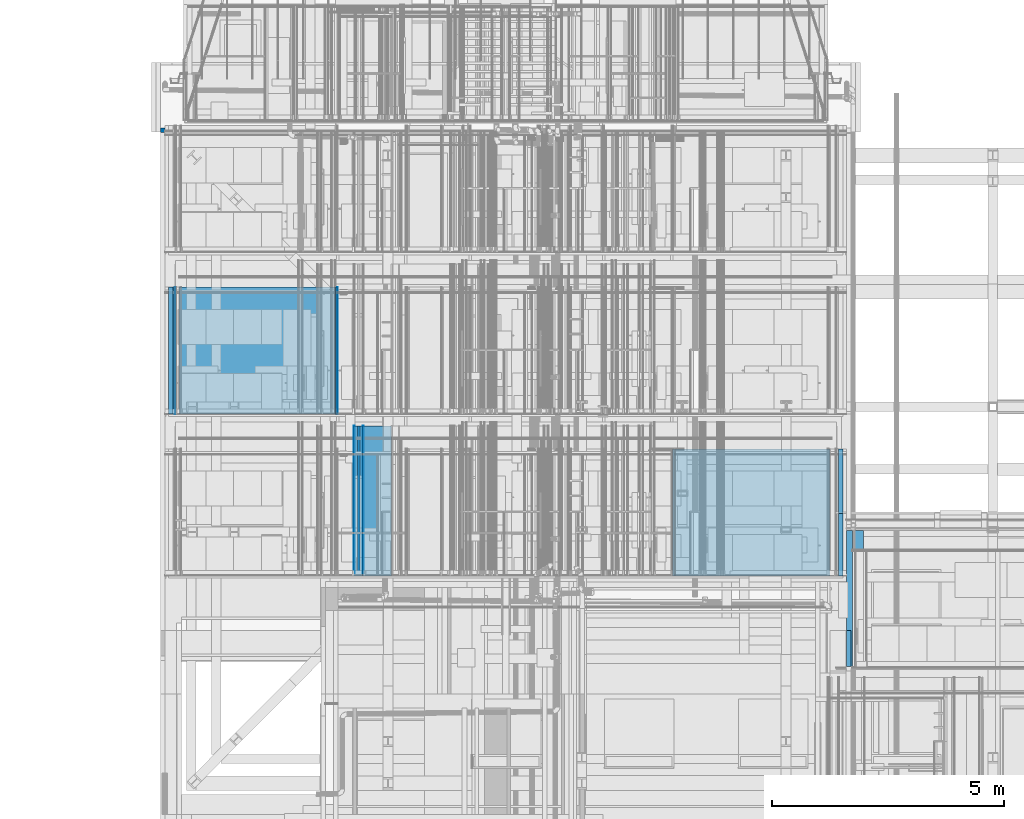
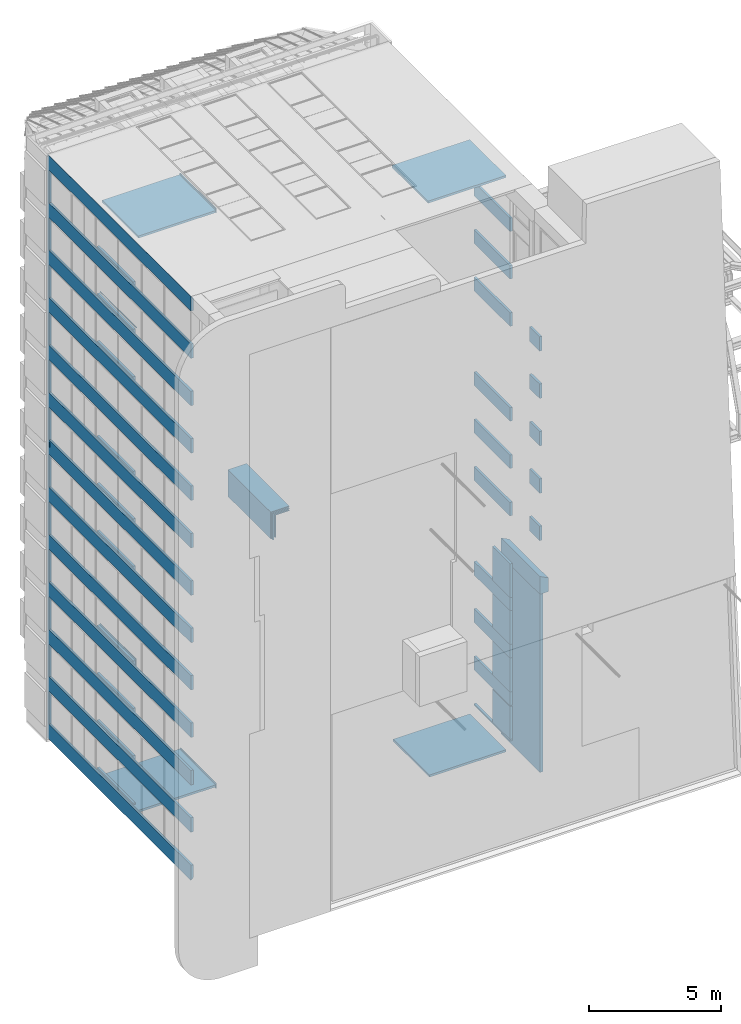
# One storey, part 14 of 583: 53 walls, 13 openings.
"""IFC2X3 building model written with IfcOpenShell, lengths in metres."""

from ifc_helpers import new_model, entity, si_unit, converted_unit, derived_unit, money_unit, direction, frame, frame_2d, origin_with_axes, place, context, subcontext, project, spatial, polyline, rectangle, outline, extrude, material, type_object, element, save


model = new_model("IFC2X3")

# Units and contexts
model_context = context("Model", 3, precision=1e-05, world=origin_with_axes(), true_north=direction((0.0, 1.0)))
body_context = subcontext(model_context, "Body", "Model", "MODEL_VIEW", scale=1.0)
ifc_project = project(units=[si_unit("LENGTHUNIT", "METRE"), si_unit("AREAUNIT", "SQUARE_METRE"), si_unit("VOLUMEUNIT", "CUBIC_METRE"), si_unit("ABSORBEDDOSEUNIT", "GRAY"), si_unit("AMOUNTOFSUBSTANCEUNIT", "MOLE"), si_unit("DOSEEQUIVALENTUNIT", "SIEVERT"), si_unit("ELECTRICCAPACITANCEUNIT", "FARAD"), si_unit("ELECTRICCHARGEUNIT", "COULOMB"), si_unit("ELECTRICCONDUCTANCEUNIT", "SIEMENS"), si_unit("ELECTRICCURRENTUNIT", "AMPERE"), si_unit("ELECTRICRESISTANCEUNIT", "OHM"), si_unit("ELECTRICVOLTAGEUNIT", "VOLT"), si_unit("ENERGYUNIT", "JOULE"), si_unit("FORCEUNIT", "NEWTON"), si_unit("FREQUENCYUNIT", "HERTZ"), si_unit("ILLUMINANCEUNIT", "LUX"), si_unit("INDUCTANCEUNIT", "HENRY"), si_unit("LUMINOUSFLUXUNIT", "LUMEN"), si_unit("LUMINOUSINTENSITYUNIT", "CANDELA"), si_unit("MAGNETICFLUXDENSITYUNIT", "TESLA"), si_unit("MAGNETICFLUXUNIT", "WEBER"), si_unit("MASSUNIT", "GRAM"), converted_unit("PLANEANGLEUNIT", "degree", entity("IfcReal", 0.0174532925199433), si_unit("PLANEANGLEUNIT", "RADIAN"), dimensions=[0, 0, 0, 0, 0, 0, 0]), si_unit("POWERUNIT", "WATT"), si_unit("PRESSUREUNIT", "PASCAL"), si_unit("RADIOACTIVITYUNIT", "BECQUEREL"), si_unit("SOLIDANGLEUNIT", "STERADIAN"), si_unit("THERMODYNAMICTEMPERATUREUNIT", "KELVIN"), si_unit("TIMEUNIT", "SECOND"), derived_unit("ACCELERATIONUNIT", [(si_unit("LENGTHUNIT", "METRE"), 1), (si_unit("TIMEUNIT", "SECOND"), -2)]), derived_unit("ANGULARVELOCITYUNIT", [(converted_unit("PLANEANGLEUNIT", "degree", entity("IfcReal", 0.0174532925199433), si_unit("PLANEANGLEUNIT", "RADIAN"), dimensions=[0, 0, 0, 0, 0, 0, 0]), 1), (si_unit("TIMEUNIT", "SECOND"), -1)]), derived_unit("CURVATUREUNIT", [(converted_unit("PLANEANGLEUNIT", "degree", entity("IfcReal", 0.0174532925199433), si_unit("PLANEANGLEUNIT", "RADIAN"), dimensions=[0, 0, 0, 0, 0, 0, 0]), 1), (si_unit("LENGTHUNIT", "METRE"), -1)]), derived_unit("DYNAMICVISCOSITYUNIT", [(si_unit("PRESSUREUNIT", "PASCAL"), 1), (si_unit("TIMEUNIT", "SECOND"), 1)]), derived_unit("HEATFLUXDENSITYUNIT", [(si_unit("POWERUNIT", "WATT"), 1), (si_unit("LENGTHUNIT", "METRE"), -2)]), derived_unit("HEATINGVALUEUNIT", [(si_unit("ENERGYUNIT", "JOULE"), 1), (si_unit("MASSUNIT", "GRAM"), -1)]), derived_unit("INTEGERCOUNTRATEUNIT", [(si_unit("TIMEUNIT", "SECOND"), -1)]), derived_unit("IONCONCENTRATIONUNIT", [(si_unit("MASSUNIT", "GRAM"), 1), (si_unit("VOLUMEUNIT", "CUBIC_METRE"), -1)]), derived_unit("ISOTHERMALMOISTURECAPACITYUNIT", [(si_unit("VOLUMEUNIT", "CUBIC_METRE"), 1), (si_unit("MASSUNIT", "GRAM"), -1)]), derived_unit("KINEMATICVISCOSITYUNIT", [(si_unit("AREAUNIT", "SQUARE_METRE"), 1), (si_unit("TIMEUNIT", "SECOND"), -1)]), derived_unit("LINEARFORCEUNIT", [(si_unit("FORCEUNIT", "NEWTON"), 1), (si_unit("LENGTHUNIT", "METRE"), -1)]), derived_unit("LINEARMOMENTUNIT", [(si_unit("FORCEUNIT", "NEWTON"), 1), (si_unit("LENGTHUNIT", "METRE"), -1)]), derived_unit("LINEARSTIFFNESSUNIT", [(si_unit("FORCEUNIT", "NEWTON"), 1), (si_unit("LENGTHUNIT", "METRE"), -1)]), derived_unit("LINEARVELOCITYUNIT", [(si_unit("LENGTHUNIT", "METRE"), 1), (si_unit("TIMEUNIT", "SECOND"), -1)]), derived_unit("LUMINOUSINTENSITYDISTRIBUTIONUNIT", [(si_unit("LUMINOUSINTENSITYUNIT", "CANDELA"), 1), (si_unit("LUMINOUSFLUXUNIT", "LUMEN"), -1)]), derived_unit("MASSDENSITYUNIT", [(si_unit("MASSUNIT", "GRAM"), 1), (si_unit("VOLUMEUNIT", "CUBIC_METRE"), -1)]), derived_unit("MASSFLOWRATEUNIT", [(si_unit("MASSUNIT", "GRAM"), 1), (si_unit("TIMEUNIT", "SECOND"), -1)]), derived_unit("MASSPERLENGTHUNIT", [(si_unit("MASSUNIT", "GRAM"), 1), (si_unit("LENGTHUNIT", "METRE"), -1)]), derived_unit("MODULUSOFELASTICITYUNIT", [(si_unit("FORCEUNIT", "NEWTON"), 1), (si_unit("AREAUNIT", "SQUARE_METRE"), -1)]), derived_unit("MODULUSOFLINEARSUBGRADEREACTIONUNIT", [(si_unit("FORCEUNIT", "NEWTON"), 1), (si_unit("LENGTHUNIT", "METRE"), -2)]), derived_unit("MODULUSOFROTATIONALSUBGRADEREACTIONUNIT", [(si_unit("FORCEUNIT", "NEWTON"), 1), (si_unit("LENGTHUNIT", "METRE"), 1)]), derived_unit("MODULUSOFSUBGRADEREACTIONUNIT", [(si_unit("FORCEUNIT", "NEWTON"), 1), (si_unit("VOLUMEUNIT", "CUBIC_METRE"), -1)]), derived_unit("MOISTUREDIFFUSIVITYUNIT", [(si_unit("VOLUMEUNIT", "CUBIC_METRE"), 1), (si_unit("TIMEUNIT", "SECOND"), -1)]), derived_unit("MOLECULARWEIGHTUNIT", [(si_unit("MASSUNIT", "GRAM"), 1), (si_unit("AMOUNTOFSUBSTANCEUNIT", "MOLE"), -1)]), derived_unit("PLANARFORCEUNIT", [(si_unit("FORCEUNIT", "NEWTON"), 1), (si_unit("LENGTHUNIT", "METRE"), -2)]), derived_unit("ROTATIONALFREQUENCYUNIT", [(si_unit("TIMEUNIT", "SECOND"), -1)]), derived_unit("ROTATIONALMASSUNIT", [(si_unit("MASSUNIT", "GRAM"), 1), (si_unit("LENGTHUNIT", "METRE"), 2)]), derived_unit("ROTATIONALSTIFFNESSUNIT", [(si_unit("FORCEUNIT", "NEWTON"), 1), (si_unit("LENGTHUNIT", "METRE"), 1), (converted_unit("PLANEANGLEUNIT", "degree", entity("IfcReal", 0.0174532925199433), si_unit("PLANEANGLEUNIT", "RADIAN"), dimensions=[0, 0, 0, 0, 0, 0, 0]), -1)]), derived_unit("SECTIONAREAINTEGRALUNIT", [(si_unit("LENGTHUNIT", "METRE"), 5)]), derived_unit("SECTIONMODULUSUNIT", [(si_unit("LENGTHUNIT", "METRE"), 3)]), derived_unit("SHEARMODULUSUNIT", [(si_unit("FORCEUNIT", "NEWTON"), 1), (si_unit("AREAUNIT", "SQUARE_METRE"), -1)]), derived_unit("SOUNDPOWERUNIT", [(si_unit("ENERGYUNIT", "JOULE"), 1), (si_unit("TIMEUNIT", "SECOND"), -1)]), derived_unit("SPECIFICHEATCAPACITYUNIT", [(si_unit("FORCEUNIT", "NEWTON"), 1), (si_unit("MASSUNIT", "GRAM"), -1), (si_unit("THERMODYNAMICTEMPERATUREUNIT", "KELVIN"), -1)]), derived_unit("TEMPERATUREGRADIENTUNIT", [(si_unit("THERMODYNAMICTEMPERATUREUNIT", "KELVIN"), 1), (si_unit("LENGTHUNIT", "METRE"), -1)]), derived_unit("THERMALADMITTANCEUNIT", [(si_unit("POWERUNIT", "WATT"), 1), (si_unit("AREAUNIT", "SQUARE_METRE"), -1), (si_unit("THERMODYNAMICTEMPERATUREUNIT", "KELVIN"), -1)]), derived_unit("THERMALCONDUCTANCEUNIT", [(si_unit("POWERUNIT", "WATT"), 1), (si_unit("LENGTHUNIT", "METRE"), -1), (si_unit("THERMODYNAMICTEMPERATUREUNIT", "KELVIN"), -1)]), derived_unit("THERMALEXPANSIONCOEFFICIENTUNIT", [(si_unit("THERMODYNAMICTEMPERATUREUNIT", "KELVIN"), -1)]), derived_unit("THERMALRESISTANCEUNIT", [(si_unit("AREAUNIT", "SQUARE_METRE"), 1), (si_unit("POWERUNIT", "WATT"), -1)]), derived_unit("THERMALTRANSMITTANCEUNIT", [(si_unit("POWERUNIT", "WATT"), 1), (si_unit("AREAUNIT", "SQUARE_METRE"), -1), (si_unit("THERMODYNAMICTEMPERATUREUNIT", "KELVIN"), -1)]), derived_unit("TORQUEUNIT", [(si_unit("FORCEUNIT", "NEWTON"), 1), (si_unit("LENGTHUNIT", "METRE"), 1)]), derived_unit("VAPORPERMEABILITYUNIT", [(si_unit("MASSUNIT", "GRAM"), 1), (si_unit("TIMEUNIT", "SECOND"), -1)]), derived_unit("VOLUMETRICFLOWRATEUNIT", [(si_unit("VOLUMEUNIT", "CUBIC_METRE"), 1), (si_unit("TIMEUNIT", "SECOND"), -1)]), derived_unit("WARPINGCONSTANTUNIT", [(si_unit("LENGTHUNIT", "METRE"), 6)]), derived_unit("WARPINGMOMENTUNIT", [(si_unit("FORCEUNIT", "NEWTON"), 1), (si_unit("LENGTHUNIT", "METRE"), 2)]), money_unit("GBP")], contexts=[model_context])

# Site, building, storey
site_placement = place(None, origin_with_axes())
site = spatial("IfcSite", under=ifc_project, at=site_placement, Name="Site", CompositionType="ELEMENT")
building_placement = place(site_placement, origin_with_axes())
building = spatial("IfcBuilding", under=site, at=building_placement, Name="Building01", CompositionType="ELEMENT")
storey_placement = place(building_placement, frame((0.0, 0.0, 20.78), z_axis=(0.0, 0.0, 1.0), x_axis=(1.0, 0.0, 0.0)))
storey = spatial("IfcBuildingStorey", under=building, at=storey_placement, Name="RL", CompositionType="ELEMENT", Elevation=20.78)

# Walls
ifc_material_1 = material(Name="A_BSUK_WallsExternal_Brick")
wall_type_1 = type_object("IfcWallType", Name="A-Walls-ExternalBrick", PredefinedType="NOTDEFINED")
for number, where, z_axis, x_axis, name in (
    (1, (14.9, 3.199759, -1.04), (0.0, 1.0, 0.0), (0.0, 0.0, 1.0), "A-Walls-ExternalBrick"),
    (2, (14.9, 3.199759, -3.23), (0.0, 1.0, 0.0), (0.0, 0.0, 1.0), "A-Walls-ExternalBrick"),
    (3, (14.9, 3.199759, -5.42), (0.0, 1.0, 0.0), (0.0, 0.0, 1.0), "A-Walls-ExternalBrick"),
    (4, (14.9, 3.199759, -7.61), (0.0, 1.0, 0.0), (0.0, 0.0, 1.0), "A-Walls-ExternalBrick"),
    (5, (14.9, 3.199759, -9.8), (0.0, 1.0, 0.0), (0.0, 0.0, 1.0), "A-Walls-ExternalBrick"),
):
    element("IfcWall", number, at=place(storey_placement, frame(where, z_axis=z_axis, x_axis=x_axis)), inside=storey, type_object=wall_type_1, material=ifc_material_1, Name=name, ObjectType="A-Walls-ExternalBrick", context=body_context, shape_type="SweptSolid", body=[
        extrude(rectangle(XDim=0.67, YDim=0.1, at=frame_2d((0.335, -0.05), x_axis=(1.0, 0.0))), origin_with_axes(), (0.0, 0.0, 1.0), 0.770241),
    ])

# Wall, openings
wall_1_placement = place(storey_placement, frame((0.0, 3.97, -20.78), z_axis=(0.0, 1.0, 0.0), x_axis=(0.0, 0.0, 1.0)))
wall_1 = element("IfcWall", 6, at=wall_1_placement, inside=storey, type_object=wall_type_1, material=ifc_material_1, Name="A-Walls-ExternalBrick", ObjectType="A-Walls-ExternalBrick", context=body_context, shape_type="SweptSolid", body=[
    extrude(outline(polyline([(26.88, 0.1), (0.1, 0.1), (0.0, 0.0), (26.98, 0.0), (26.88, 0.1)])), origin_with_axes(), (0.0, 0.0, 1.0), 10.850238),
])
opening_1_placement = place(wall_1_placement, frame((13.538416, 0.0, 10.664949), z_axis=(0.0, 0.0, 1.0), x_axis=(1.0, 0.0, 0.0)))
element("IfcOpeningElement", 7, at=opening_1_placement, cuts=wall_1, Name="Opening", ObjectType="Opening", context=body_context, shape_type="SweptSolid", body=[
    extrude(rectangle(XDim=0.075389, YDim=0.220658, at=frame_2d((-0.110329, 0.037695), x_axis=(0.0, -1.0))), frame((0.0, 0.0, 0.0), z_axis=(0.0, 1.0, 0.0), x_axis=(-1.0, 0.0, 0.0)), (0.0, 0.0, 1.0), 0.1),
])
opening_2_placement = place(wall_1_placement, frame((22.6, 0.0, 0.0), z_axis=(0.0, 0.0, 1.0), x_axis=(1.0, 0.0, 0.0)))
element("IfcOpeningElement", 8, at=opening_2_placement, cuts=wall_1, Name="Opening", ObjectType="Opening", context=body_context, shape_type="SweptSolid", body=[
    extrude(rectangle(XDim=1.52, YDim=10.75, at=frame_2d((-0.76, 5.375), x_axis=(-1.0, 0.0))), frame((0.0, 0.0, 0.0), z_axis=(0.0, 1.0, 0.0), x_axis=(-1.0, 0.0, 0.0)), (0.0, 0.0, 1.0), 0.1),
])
opening_3_placement = place(wall_1_placement, frame((20.41, 0.0, 0.0), z_axis=(0.0, 0.0, 1.0), x_axis=(1.0, 0.0, 0.0)))
element("IfcOpeningElement", 9, at=opening_3_placement, cuts=wall_1, Name="Opening", ObjectType="Opening", context=body_context, shape_type="SweptSolid", body=[
    extrude(rectangle(XDim=1.52, YDim=10.75, at=frame_2d((-0.76, 5.375), x_axis=(-1.0, 0.0))), frame((0.0, 0.0, 0.0), z_axis=(0.0, 1.0, 0.0), x_axis=(-1.0, 0.0, 0.0)), (0.0, 0.0, 1.0), 0.1),
])
opening_4_placement = place(wall_1_placement, frame((18.22, 0.0, 0.0), z_axis=(0.0, 0.0, 1.0), x_axis=(1.0, 0.0, 0.0)))
element("IfcOpeningElement", 10, at=opening_4_placement, cuts=wall_1, Name="Opening", ObjectType="Opening", context=body_context, shape_type="SweptSolid", body=[
    extrude(rectangle(XDim=1.52, YDim=10.75, at=frame_2d((-0.76, 5.375), x_axis=(-1.0, 0.0))), frame((0.0, 0.0, 0.0), z_axis=(0.0, 1.0, 0.0), x_axis=(-1.0, 0.0, 0.0)), (0.0, 0.0, 1.0), 0.1),
])
opening_5_placement = place(wall_1_placement, frame((16.03, 0.0, 0.0), z_axis=(0.0, 0.0, 1.0), x_axis=(1.0, 0.0, 0.0)))
element("IfcOpeningElement", 11, at=opening_5_placement, cuts=wall_1, Name="Opening", ObjectType="Opening", context=body_context, shape_type="SweptSolid", body=[
    extrude(rectangle(XDim=1.52, YDim=10.75, at=frame_2d((-0.76, 5.375), x_axis=(-1.0, 0.0))), frame((0.0, 0.0, 0.0), z_axis=(0.0, 1.0, 0.0), x_axis=(-1.0, 0.0, 0.0)), (0.0, 0.0, 1.0), 0.1),
])
opening_6_placement = place(wall_1_placement, frame((13.84, 0.0, 0.0), z_axis=(0.0, 0.0, 1.0), x_axis=(1.0, 0.0, 0.0)))
element("IfcOpeningElement", 12, at=opening_6_placement, cuts=wall_1, Name="Opening", ObjectType="Opening", context=body_context, shape_type="SweptSolid", body=[
    extrude(rectangle(XDim=1.52, YDim=10.75, at=frame_2d((-0.76, 5.375), x_axis=(-1.0, 0.0))), frame((0.0, 0.0, 0.0), z_axis=(0.0, 1.0, 0.0), x_axis=(-1.0, 0.0, 0.0)), (0.0, 0.0, 1.0), 0.1),
])
opening_7_placement = place(wall_1_placement, frame((11.65, 0.0, 0.0), z_axis=(0.0, 0.0, 1.0), x_axis=(1.0, 0.0, 0.0)))
element("IfcOpeningElement", 13, at=opening_7_placement, cuts=wall_1, Name="Opening", ObjectType="Opening", context=body_context, shape_type="SweptSolid", body=[
    extrude(rectangle(XDim=1.52, YDim=10.75, at=frame_2d((-0.76, 5.375), x_axis=(-1.0, 0.0))), frame((0.0, 0.0, 0.0), z_axis=(0.0, 1.0, 0.0), x_axis=(-1.0, 0.0, 0.0)), (0.0, 0.0, 1.0), 0.1),
])
opening_8_placement = place(wall_1_placement, frame((9.46, 0.0, 0.0), z_axis=(0.0, 0.0, 1.0), x_axis=(1.0, 0.0, 0.0)))
element("IfcOpeningElement", 14, at=opening_8_placement, cuts=wall_1, Name="Opening", ObjectType="Opening", context=body_context, shape_type="SweptSolid", body=[
    extrude(rectangle(XDim=1.52, YDim=10.75, at=frame_2d((-0.76, 5.375), x_axis=(-1.0, 0.0))), frame((0.0, 0.0, 0.0), z_axis=(0.0, 1.0, 0.0), x_axis=(-1.0, 0.0, 0.0)), (0.0, 0.0, 1.0), 0.1),
])
opening_9_placement = place(wall_1_placement, frame((24.79, 0.0, 0.0), z_axis=(0.0, 0.0, 1.0), x_axis=(1.0, 0.0, 0.0)))
element("IfcOpeningElement", 15, at=opening_9_placement, cuts=wall_1, Name="Opening", ObjectType="Opening", context=body_context, shape_type="SweptSolid", body=[
    extrude(rectangle(XDim=1.52, YDim=10.75, at=frame_2d((-0.76, 5.375), x_axis=(-1.0, 0.0))), frame((0.0, 0.0, 0.0), z_axis=(0.0, 1.0, 0.0), x_axis=(-1.0, 0.0, 0.0)), (0.0, 0.0, 1.0), 0.1),
])
opening_10_placement = place(wall_1_placement, frame((7.27, 0.0, 0.0), z_axis=(0.0, 0.0, 1.0), x_axis=(1.0, 0.0, 0.0)))
element("IfcOpeningElement", 16, at=opening_10_placement, cuts=wall_1, Name="Opening", ObjectType="Opening", context=body_context, shape_type="SweptSolid", body=[
    extrude(rectangle(XDim=1.52, YDim=10.75, at=frame_2d((-0.76, 5.375), x_axis=(-1.0, 0.0))), frame((0.0, 0.0, 0.0), z_axis=(0.0, 1.0, 0.0), x_axis=(-1.0, 0.0, 0.0)), (0.0, 0.0, 1.0), 0.1),
])
opening_11_placement = place(wall_1_placement, frame((5.08, 0.0, 0.0), z_axis=(0.0, 0.0, 1.0), x_axis=(1.0, 0.0, 0.0)))
element("IfcOpeningElement", 17, at=opening_11_placement, cuts=wall_1, Name="Opening", ObjectType="Opening", context=body_context, shape_type="SweptSolid", body=[
    extrude(rectangle(XDim=1.52, YDim=10.75, at=frame_2d((-0.76, 5.375), x_axis=(-1.0, 0.0))), frame((0.0, 0.0, 0.0), z_axis=(0.0, 1.0, 0.0), x_axis=(-1.0, 0.0, 0.0)), (0.0, 0.0, 1.0), 0.1),
])
opening_12_placement = place(wall_1_placement, frame((2.89, 0.0, 0.0), z_axis=(0.0, 0.0, 1.0), x_axis=(1.0, 0.0, 0.0)))
element("IfcOpeningElement", 18, at=opening_12_placement, cuts=wall_1, Name="Opening", ObjectType="Opening", context=body_context, shape_type="SweptSolid", body=[
    extrude(rectangle(XDim=1.52, YDim=10.75, at=frame_2d((-0.76, 5.375), x_axis=(-1.0, 0.0))), frame((0.0, 0.0, 0.0), z_axis=(0.0, 1.0, 0.0), x_axis=(-1.0, 0.0, 0.0)), (0.0, 0.0, 1.0), 0.1),
])
opening_13_placement = place(wall_1_placement, frame((0.7, 0.0, 0.0), z_axis=(0.0, 0.0, 1.0), x_axis=(1.0, 0.0, 0.0)))
element("IfcOpeningElement", 19, at=opening_13_placement, cuts=wall_1, Name="Opening", ObjectType="Opening", context=body_context, shape_type="SweptSolid", body=[
    extrude(rectangle(XDim=1.52, YDim=10.75, at=frame_2d((-0.76, 5.375), x_axis=(-1.0, 0.0))), frame((0.0, 0.0, 0.0), z_axis=(0.0, 1.0, 0.0), x_axis=(-1.0, 0.0, 0.0)), (0.0, 0.0, 1.0), 0.1),
])

# Walls
ifc_material_2 = material(Name="A_BSUK_WallsExternal_Block")
wall_type_2 = type_object("IfcWallType", Name="A-Walls-ExternalBlock", PredefinedType="NOTDEFINED")
wall_2_placement = place(storey_placement, frame((14.8, 3.185, -20.499228), z_axis=(0.0, 1.0, 0.0), x_axis=(0.0, 0.0, 1.0)))
element("IfcWall", 20, at=wall_2_placement, inside=storey, type_object=wall_type_2, material=ifc_material_2, Name="A-Walls-ExternalBlock", ObjectType="A-Walls-ExternalBlock", context=body_context, shape_type="SweptSolid", body=[
    extrude(outline(polyline([(8.236121, 0.13), (5e-06, 0.13), (0.0, 0.0), (8.236121, 0.0), (8.236121, 0.13)])), origin_with_axes(), (0.0, 0.0, 1.0), 2.947),
])
wall_3_placement = place(storey_placement, frame((15.168, 3.185, -11.625735), z_axis=(0.0, 1.0, 0.0), x_axis=(0.0, 0.0, -1.0)))
element("IfcWall", 21, at=wall_3_placement, inside=storey, type_object=wall_type_2, material=ifc_material_2, Name="A-Walls-ExternalBlock", ObjectType="A-Walls-ExternalBlock", context=body_context, shape_type="SweptSolid", body=[
    extrude(outline(polyline([(0.637372, 0.368), (-0.189, 0.368), (0.0, 0.0), (0.637372, 0.0), (0.637372, 0.368)])), origin_with_axes(), (0.0, 0.0, 1.0), 2.947),
])
wall_4_placement = place(storey_placement, frame((14.63, 5.15, -20.18), z_axis=(0.0, 1.0, 0.0), x_axis=(0.0, 0.0, 1.0)))
element("IfcWall", 22, at=wall_4_placement, inside=storey, type_object=wall_type_2, material=ifc_material_2, Name="A-Walls-ExternalBlock", ObjectType="A-Walls-ExternalBlock", context=body_context, shape_type="SweptSolid", body=[
    extrude(rectangle(XDim=0.077, YDim=0.1, at=frame_2d((0.0385, 0.05), x_axis=(-1.0, 0.0))), origin_with_axes(), (0.0, 0.0, 1.0), 2.74),
])
wall_5_placement = place(storey_placement, frame((14.45, 5.15, -20.61), z_axis=(0.0, 1.0, 0.0), x_axis=(-1.0, 0.0, 0.0)))
element("IfcWall", 23, at=wall_5_placement, inside=storey, type_object=wall_type_2, material=ifc_material_2, Name="A-Walls-ExternalBlock", ObjectType="A-Walls-ExternalBlock", context=body_context, shape_type="SweptSolid", body=[
    extrude(rectangle(XDim=3.347, YDim=0.1, at=frame_2d((1.6735, 0.05), x_axis=(-1.0, 0.0))), origin_with_axes(), (0.0, 0.0, 1.0), 2.74),
])
for number, where, z_axis, x_axis, name in (
    (24, (14.63, 5.15, -18.537), (0.0, 1.0, 0.0), (0.0, 0.0, 1.0), "A-Walls-ExternalBlock"),
    (25, (14.63, 5.15, -16.347), (0.0, 1.0, 0.0), (0.0, 0.0, 1.0), "A-Walls-ExternalBlock"),
):
    element("IfcWall", number, at=place(storey_placement, frame(where, z_axis=z_axis, x_axis=x_axis)), inside=storey, type_object=wall_type_2, material=ifc_material_2, Name=name, ObjectType="A-Walls-ExternalBlock", context=body_context, shape_type="SweptSolid", body=[
        extrude(rectangle(XDim=0.624, YDim=0.1, at=frame_2d((0.312, 0.05), x_axis=(-1.0, 0.0))), origin_with_axes(), (0.0, 0.0, 1.0), 2.74),
    ])
wall_6_placement = place(storey_placement, frame((14.63, 5.15, -14.157124), z_axis=(0.0, 1.0, 0.0), x_axis=(0.0, 0.0, 1.0)))
element("IfcWall", 26, at=wall_6_placement, inside=storey, type_object=wall_type_2, material=ifc_material_2, Name="A-Walls-ExternalBlock", ObjectType="A-Walls-ExternalBlock", context=body_context, shape_type="SweptSolid", body=[
    extrude(rectangle(XDim=0.624124, YDim=0.1, at=frame_2d((0.312062, 0.05), x_axis=(-1.0, 0.0))), origin_with_axes(), (0.0, 0.0, 1.0), 2.74),
])
for number, where, z_axis, x_axis, name in (
    (27, (14.63, 5.15, -9.777), (0.0, 1.0, 0.0), (0.0, 0.0, 1.0), "A-Walls-ExternalBlock"),
    (28, (14.63, 5.15, -7.587), (0.0, 1.0, 0.0), (0.0, 0.0, 1.0), "A-Walls-ExternalBlock"),
):
    element("IfcWall", number, at=place(storey_placement, frame(where, z_axis=z_axis, x_axis=x_axis)), inside=storey, type_object=wall_type_2, material=ifc_material_2, Name=name, ObjectType="A-Walls-ExternalBlock", context=body_context, shape_type="SweptSolid", body=[
        extrude(rectangle(XDim=0.624, YDim=0.1, at=frame_2d((0.312, 0.05), x_axis=(-1.0, 0.0))), origin_with_axes(), (0.0, 0.0, 1.0), 2.74),
    ])
wall_7_placement = place(storey_placement, frame((14.63, 5.15, -5.397), z_axis=(0.0, 1.0, 0.0), x_axis=(0.0, 0.0, 1.0)))
element("IfcWall", 29, at=wall_7_placement, inside=storey, type_object=wall_type_2, material=ifc_material_2, Name="A-Walls-ExternalBlock", ObjectType="A-Walls-ExternalBlock", context=body_context, shape_type="SweptSolid", body=[
    extrude(rectangle(XDim=0.624, YDim=0.1, at=frame_2d((0.312, 0.05), x_axis=(1.0, 0.0))), origin_with_axes(), (0.0, 0.0, 1.0), 2.74),
])
for number, where, z_axis, x_axis, name in (
    (30, (14.63, 5.15, -1.017), (0.0, 1.0, 0.0), (0.0, 0.0, 1.0), "A-Walls-ExternalBlock"),
    (31, (14.63, 5.15, 1.173), (0.0, 1.0, 0.0), (0.0, 0.0, 1.0), "A-Walls-ExternalBlock"),
    (32, (14.63, 5.15, 3.363), (0.0, 1.0, 0.0), (0.0, 0.0, 1.0), "A-Walls-ExternalBlock"),
):
    element("IfcWall", number, at=place(storey_placement, frame(where, z_axis=z_axis, x_axis=x_axis)), inside=storey, type_object=wall_type_2, material=ifc_material_2, Name=name, ObjectType="A-Walls-ExternalBlock", context=body_context, shape_type="SweptSolid", body=[
        extrude(rectangle(XDim=0.624, YDim=0.1, at=frame_2d((0.312, 0.05), x_axis=(-1.0, 0.0))), origin_with_axes(), (0.0, 0.0, 1.0), 2.74),
    ])
wall_8_placement = place(storey_placement, frame((14.45, 5.15, 5.93), z_axis=(0.0, 1.0, 0.0), x_axis=(-1.0, 0.0, 0.0)))
element("IfcWall", 33, at=wall_8_placement, inside=storey, type_object=wall_type_2, material=ifc_material_2, Name="A-Walls-ExternalBlock", ObjectType="A-Walls-ExternalBlock", context=body_context, shape_type="SweptSolid", body=[
    extrude(rectangle(XDim=3.40582, YDim=0.1, at=frame_2d((1.70291, 0.05), x_axis=(-1.0, 0.0))), origin_with_axes(), (0.0, 0.0, 1.0), 2.74),
])
wall_9_placement = place(storey_placement, frame((14.63, 5.15, -20.103), z_axis=(0.0, 1.0, 0.0), x_axis=(0.0, 0.0, 1.0)))
element("IfcWall", 34, at=wall_9_placement, inside=storey, type_object=wall_type_2, material=ifc_material_2, Name="A-Walls-ExternalBlock", ObjectType="A-Walls-ExternalBlock", context=body_context, shape_type="SweptSolid", body=[
    extrude(rectangle(XDim=1.518, YDim=0.1, at=frame_2d((0.759, 0.05), x_axis=(-1.0, 0.0))), origin_with_axes(), (0.0, 0.0, 1.0), 1.35),
])
for number, where, z_axis, x_axis, name in (
    (35, (14.63, 5.15, -17.913), (0.0, 1.0, 0.0), (0.0, 0.0, 1.0), "A-Walls-ExternalBlock"),
    (36, (14.63, 5.15, -15.723124), (0.0, 1.0, 0.0), (0.0, 0.0, 1.0), "A-Walls-ExternalBlock"),
    (37, (14.63, 5.15, -13.556), (0.0, 1.0, 0.0), (0.0, 0.0, 1.0), "A-Walls-ExternalBlock"),
):
    element("IfcWall", number, at=place(storey_placement, frame(where, z_axis=z_axis, x_axis=x_axis)), inside=storey, type_object=wall_type_2, material=ifc_material_2, Name=name, ObjectType="A-Walls-ExternalBlock", context=body_context, shape_type="SweptSolid", body=[
        extrude(rectangle(XDim=1.566, YDim=0.1, at=frame_2d((0.783, 0.05), x_axis=(1.0, 0.0))), origin_with_axes(), (0.0, 0.0, 1.0), 1.35),
    ])
wall_10_placement = place(storey_placement, frame((3.77418, 8.64, -20.61), z_axis=(0.0, 1.0, 0.0), x_axis=(-1.0, 0.0, 0.0)))
element("IfcWall", 38, at=wall_10_placement, inside=storey, type_object=wall_type_2, material=ifc_material_2, Name="A-Walls-ExternalBlock", ObjectType="A-Walls-ExternalBlock", context=body_context, shape_type="SweptSolid", body=[
    extrude(rectangle(XDim=3.37418, YDim=0.1, at=frame_2d((1.68709, 0.05), x_axis=(1.0, 0.0))), origin_with_axes(), (0.0, 0.0, 1.0), 2.74),
])
wall_11_placement = place(storey_placement, frame((0.27, 8.64, -20.103), z_axis=(0.0, 1.0, 0.0), x_axis=(0.0, 0.0, -1.0)))
element("IfcWall", 39, at=wall_11_placement, inside=storey, type_object=wall_type_2, material=ifc_material_2, Name="A-Walls-ExternalBlock", ObjectType="A-Walls-ExternalBlock", context=body_context, shape_type="SweptSolid", body=[
    extrude(rectangle(XDim=0.077, YDim=0.1, at=frame_2d((0.0385, 0.05), x_axis=(1.0, 0.0))), origin_with_axes(), (0.0, 0.0, 1.0), 2.74),
])
for number, where, z_axis, x_axis, name in (
    (40, (0.27, 8.64, -17.913), (0.0, 1.0, 0.0), (0.0, 0.0, -1.0), "A-Walls-ExternalBlock"),
    (41, (0.27, 8.64, -15.723), (0.0, 1.0, 0.0), (0.0, 0.0, -1.0), "A-Walls-ExternalBlock"),
    (42, (0.27, 8.64, -13.533), (0.0, 1.0, 0.0), (0.0, 0.0, -1.0), "A-Walls-ExternalBlock"),
    (43, (0.27, 8.64, -9.153), (0.0, 1.0, 0.0), (0.0, 0.0, -1.0), "A-Walls-ExternalBlock"),
    (44, (0.27, 8.64, -6.963), (0.0, 1.0, 0.0), (0.0, 0.0, -1.0), "A-Walls-ExternalBlock"),
    (45, (0.27, 8.64, -4.773), (0.0, 1.0, 0.0), (0.0, 0.0, -1.0), "A-Walls-ExternalBlock"),
    (46, (0.27, 8.64, -0.393), (0.0, 1.0, 0.0), (0.0, 0.0, -1.0), "A-Walls-ExternalBlock"),
    (47, (0.27, 8.64, 1.797), (0.0, 1.0, 0.0), (0.0, 0.0, -1.0), "A-Walls-ExternalBlock"),
    (48, (0.27, 8.64, 3.987), (0.0, 1.0, 0.0), (0.0, 0.0, -1.0), "A-Walls-ExternalBlock"),
):
    element("IfcWall", number, at=place(storey_placement, frame(where, z_axis=z_axis, x_axis=x_axis)), inside=storey, type_object=wall_type_2, material=ifc_material_2, Name=name, ObjectType="A-Walls-ExternalBlock", context=body_context, shape_type="SweptSolid", body=[
        extrude(rectangle(XDim=0.624, YDim=0.1, at=frame_2d((0.312, 0.05), x_axis=(-1.0, 0.0))), origin_with_axes(), (0.0, 0.0, 1.0), 2.74),
    ])
wall_12_placement = place(storey_placement, frame((3.77418, 8.64, 5.93), z_axis=(0.0, 1.0, 0.0), x_axis=(-1.0, 0.0, 0.0)))
element("IfcWall", 49, at=wall_12_placement, inside=storey, type_object=wall_type_2, material=ifc_material_2, Name="A-Walls-ExternalBlock", ObjectType="A-Walls-ExternalBlock", context=body_context, shape_type="SweptSolid", body=[
    extrude(rectangle(XDim=3.37418, YDim=0.1, at=frame_2d((1.68709, 0.05), x_axis=(1.0, 0.0))), origin_with_axes(), (0.0, 0.0, 1.0), 2.74),
])
ifc_material_3 = material(Name="A_BSUK_WallInternal_Finishes_Plasterboard")
wall_type_3 = type_object("IfcWallType", Name="default", PredefinedType="NOTDEFINED")
wall_13_placement = place(storey_placement, frame((4.389428, 5.15, -6.155), z_axis=(0.0, 1.0, 0.0), x_axis=(0.0, 0.0, -1.0)))
element("IfcWall", 50, at=wall_13_placement, inside=storey, type_object=wall_type_3, material=ifc_material_3, Name="default", ObjectType="default", context=body_context, shape_type="SweptSolid", body=[
    extrude(outline(polyline([(1.0275, 0.015), (-0.015, 0.015), (0.0, 0.0), (1.0275, 0.0), (1.0275, 0.015)])), origin_with_axes(), (0.0, 0.0, 1.0), 3.24),
])
wall_14_placement = place(storey_placement, frame((4.374428, 5.15, -6.14), z_axis=(0.0, 1.0, 0.0), x_axis=(0.0, 0.0, -1.0)))
element("IfcWall", 51, at=wall_14_placement, inside=storey, type_object=wall_type_3, material=ifc_material_3, Name="default", ObjectType="default", context=body_context, shape_type="SweptSolid", body=[
    extrude(outline(polyline([(1.0425, 0.015), (-0.015, 0.015), (0.0, 0.0), (1.0425, 0.0), (1.0425, 0.015)])), origin_with_axes(), (0.0, 0.0, 1.0), 3.24),
])
ifc_material_4 = material(Name="A_BSUK_Insulation")
wall_15_placement = place(storey_placement, frame((4.302428, 5.15, -6.068), z_axis=(0.0, 1.0, 0.0), x_axis=(0.0, 0.0, -1.0)))
element("IfcWall", 52, at=wall_15_placement, inside=storey, type_object=wall_type_3, material=ifc_material_4, Name="default", ObjectType="default", context=body_context, shape_type="SweptSolid", body=[
    extrude(outline(polyline([(1.1865, 0.05), (-0.05, 0.05), (0.0, 0.0), (1.1865, 0.0), (1.1865, 0.05)])), origin_with_axes(), (0.0, 0.0, 1.0), 3.24),
])
for number, where, z_axis, x_axis, name in (
    (53, (4.194428, 5.15, -5.96), (0.0, 1.0, 0.0), (0.0, 0.0, -1.0), "default"),
    (54, (4.179428, 5.15, -5.945), (0.0, 1.0, 0.0), (0.0, 0.0, -1.0), "default"),
):
    element("IfcWall", number, at=place(storey_placement, frame(where, z_axis=z_axis, x_axis=x_axis)), inside=storey, type_object=wall_type_3, material=ifc_material_3, Name=name, ObjectType="default", context=body_context, shape_type="SweptSolid", body=[
        extrude(outline(polyline([(1.2225, 0.015), (-0.015, 0.015), (0.0, 0.0), (1.2225, 0.0), (1.2225, 0.015)])), origin_with_axes(), (0.0, 0.0, 1.0), 3.24),
    ])
wall_16_placement = place(storey_placement, frame((4.98, 5.15, -6.155), z_axis=(0.0, 1.0, 0.0), x_axis=(-1.0, 0.0, 0.0)))
element("IfcWall", 55, at=wall_16_placement, inside=storey, type_object=wall_type_3, material=ifc_material_3, Name="default", ObjectType="default", context=body_context, shape_type="SweptSolid", body=[
    extrude(outline(polyline([(0.605572, 0.015), (0.0, 0.015), (0.0, 0.0), (0.590572, 0.0), (0.605572, 0.015)])), origin_with_axes(), (0.0, 0.0, 1.0), 3.24),
])
wall_17_placement = place(storey_placement, frame((4.98, 5.15, -6.14), z_axis=(0.0, 1.0, 0.0), x_axis=(-1.0, 0.0, 0.0)))
element("IfcWall", 56, at=wall_17_placement, inside=storey, type_object=wall_type_3, material=ifc_material_3, Name="default", ObjectType="default", context=body_context, shape_type="SweptSolid", body=[
    extrude(outline(polyline([(0.620572, 0.015), (0.0, 0.015), (0.0, 0.0), (0.605572, 0.0), (0.620572, 0.015)])), origin_with_axes(), (0.0, 0.0, 1.0), 3.24),
])
wall_18_placement = place(storey_placement, frame((4.98, 5.15, -6.068), z_axis=(0.0, 1.0, 0.0), x_axis=(-1.0, 0.0, 0.0)))
element("IfcWall", 57, at=wall_18_placement, inside=storey, type_object=wall_type_3, material=ifc_material_4, Name="default", ObjectType="default", context=body_context, shape_type="SweptSolid", body=[
    extrude(outline(polyline([(0.727572, 0.05), (0.0, 0.05), (0.0, 0.0), (0.677572, 0.0), (0.727572, 0.05)])), origin_with_axes(), (0.0, 0.0, 1.0), 3.24),
])
wall_19_placement = place(storey_placement, frame((4.98, 5.15, -5.96), z_axis=(0.0, 1.0, 0.0), x_axis=(-1.0, 0.0, 0.0)))
element("IfcWall", 58, at=wall_19_placement, inside=storey, type_object=wall_type_3, material=ifc_material_3, Name="default", ObjectType="default", context=body_context, shape_type="SweptSolid", body=[
    extrude(outline(polyline([(0.800572, 0.015), (0.0, 0.015), (0.0, 0.0), (0.785572, 0.0), (0.800572, 0.015)])), origin_with_axes(), (0.0, 0.0, 1.0), 3.24),
])
wall_20_placement = place(storey_placement, frame((4.98, 5.15, -5.945), z_axis=(0.0, 1.0, 0.0), x_axis=(-1.0, 0.0, 0.0)))
element("IfcWall", 59, at=wall_20_placement, inside=storey, type_object=wall_type_3, material=ifc_material_3, Name="default", ObjectType="default", context=body_context, shape_type="SweptSolid", body=[
    extrude(outline(polyline([(0.815572, 0.015), (0.0, 0.015), (0.0, 0.0), (0.800572, 0.0), (0.815572, 0.015)])), origin_with_axes(), (0.0, 0.0, 1.0), 3.24),
])
wall_21_placement = place(storey_placement, frame((3.80918, 8.64, -20.68), z_axis=(0.0, 1.0, 0.0), x_axis=(0.0, 0.0, 1.0)))
element("IfcWall", 60, at=wall_21_placement, inside=storey, type_object=wall_type_3, material=ifc_material_3, Name="default", ObjectType="default", context=body_context, shape_type="SweptSolid", body=[
    extrude(outline(polyline([(0.218, 0.013), (0.0, 0.013), (0.0, 0.0), (0.205, 0.0), (0.218, 0.013)])), origin_with_axes(), (0.0, 0.0, 1.0), 2.74),
])
wall_22_placement = place(storey_placement, frame((3.77418, 8.64, -20.68), z_axis=(0.0, 1.0, 0.0), x_axis=(0.0, 0.0, 1.0)))
element("IfcWall", 61, at=wall_22_placement, inside=storey, type_object=wall_type_3, material=ifc_material_4, Name="default", ObjectType="default", context=body_context, shape_type="SweptSolid", body=[
    extrude(outline(polyline([(0.206, 0.036), (0.0, 0.036), (0.0, 0.0), (0.17, 0.0), (0.206, 0.036)])), origin_with_axes(), (0.0, 0.0, 1.0), 2.74),
])
wall_23_placement = place(storey_placement, frame((3.80918, 8.64, 5.895), z_axis=(0.0, 1.0, 0.0), x_axis=(0.0, 0.0, 1.0)))
element("IfcWall", 62, at=wall_23_placement, inside=storey, type_object=wall_type_3, material=ifc_material_3, Name="default", ObjectType="default", context=body_context, shape_type="SweptSolid", body=[
    extrude(outline(polyline([(-0.013, 0.013), (0.0, 0.0), (0.205, 0.0), (0.205, 0.013), (-0.013, 0.013)])), origin_with_axes(), (0.0, 0.0, 1.0), 2.74),
])
wall_24_placement = place(storey_placement, frame((3.77418, 8.64, 5.93), z_axis=(0.0, 1.0, 0.0), x_axis=(0.0, 0.0, 1.0)))
element("IfcWall", 63, at=wall_24_placement, inside=storey, type_object=wall_type_3, material=ifc_material_4, Name="default", ObjectType="default", context=body_context, shape_type="SweptSolid", body=[
    extrude(outline(polyline([(-0.036, 0.036), (0.0, 0.0), (0.17, 0.0), (0.17, 0.036), (-0.036, 0.036)])), origin_with_axes(), (0.0, 0.0, 1.0), 2.74),
])
wall_25_placement = place(storey_placement, frame((0.305, 8.64, 1.815), z_axis=(0.0, 1.0, 0.0), x_axis=(0.0, 0.0, 1.0)))
element("IfcWall", 64, at=wall_25_placement, inside=storey, type_object=wall_type_3, material=ifc_material_3, Name="default", ObjectType="default", context=body_context, shape_type="SweptSolid", body=[
    extrude(outline(polyline([(0.03, 0.013), (0.0, 0.013), (0.0, 0.0), (0.017, 0.0), (0.03, 0.013)])), origin_with_axes(), (0.0, 0.0, 1.0), 2.74),
])
wall_26_placement = place(storey_placement, frame((0.305, 8.64, -14.192), z_axis=(0.0, 1.0, 0.0), x_axis=(0.0, 0.0, 1.0)))
element("IfcWall", 65, at=wall_26_placement, inside=storey, type_object=wall_type_3, material=ifc_material_3, Name="default", ObjectType="default", context=body_context, shape_type="SweptSolid", body=[
    extrude(outline(polyline([(0.707, 0.013), (-0.013, 0.013), (0.0, 0.0), (0.694, 0.0), (0.707, 0.013)])), origin_with_axes(), (0.0, 0.0, 1.0), 2.74),
])
wall_27_placement = place(storey_placement, frame((0.27, 8.64, -14.157), z_axis=(0.0, 1.0, 0.0), x_axis=(0.0, 0.0, 1.0)))
element("IfcWall", 66, at=wall_27_placement, inside=storey, type_object=wall_type_3, material=ifc_material_4, Name="default", ObjectType="default", context=body_context, shape_type="SweptSolid", body=[
    extrude(outline(polyline([(0.66, 0.036), (-0.036, 0.036), (0.0, 0.0), (0.624, 0.0), (0.66, 0.036)])), origin_with_axes(), (0.0, 0.0, 1.0), 2.74),
])

save(model, "model.ifc")
